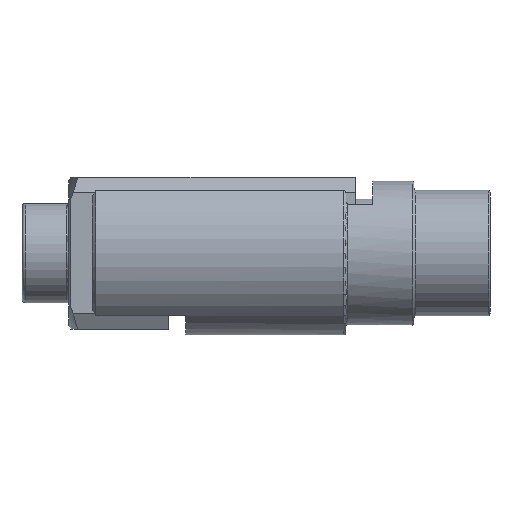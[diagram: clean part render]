
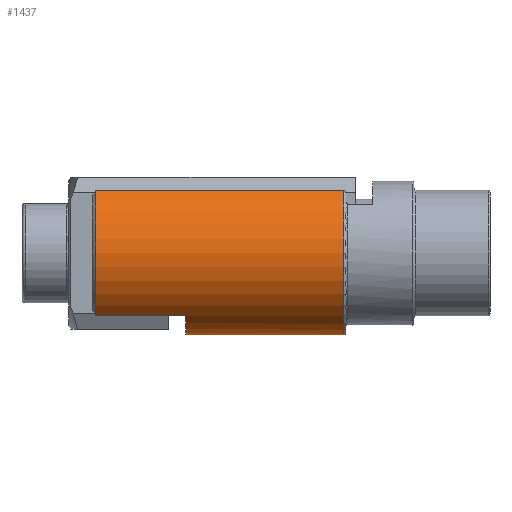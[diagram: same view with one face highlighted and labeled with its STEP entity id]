
A CAD part, left-side view. The second image highlights one B-rep face of the part: STEP entity #1437.
In plain terms, the highlighted cylindrical face has radius 11.1 mm (diameter 22.2 mm), a partial arc.
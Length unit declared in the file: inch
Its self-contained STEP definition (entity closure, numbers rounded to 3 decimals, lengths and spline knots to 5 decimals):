
#157=FACE_OUTER_BOUND('',#237,.T.);
#237=EDGE_LOOP('',(#1011,#1012,#1013,#1014,#1015,#1016,#1017,#1018));
#332=LINE('',#2300,#410);
#333=LINE('',#2304,#411);
#334=LINE('',#2308,#412);
#335=LINE('',#2311,#413);
#410=VECTOR('',#1812,0.3937);
#411=VECTOR('',#1815,0.3937);
#412=VECTOR('',#1818,0.3937);
#413=VECTOR('',#1821,0.3937);
#490=CIRCLE('',#1558,0.437);
#496=CIRCLE('',#1567,0.437);
#497=CIRCLE('',#1568,0.437);
#498=CIRCLE('',#1569,0.437);
#600=VERTEX_POINT('',#2253);
#601=VERTEX_POINT('',#2264);
#611=VERTEX_POINT('',#2299);
#612=VERTEX_POINT('',#2301);
#613=VERTEX_POINT('',#2303);
#614=VERTEX_POINT('',#2305);
#615=VERTEX_POINT('',#2307);
#616=VERTEX_POINT('',#2309);
#759=EDGE_CURVE('',#600,#601,#490,.T.);
#772=EDGE_CURVE('',#600,#611,#332,.T.);
#773=EDGE_CURVE('',#612,#611,#496,.T.);
#774=EDGE_CURVE('',#612,#613,#333,.T.);
#775=EDGE_CURVE('',#613,#614,#497,.T.);
#776=EDGE_CURVE('',#614,#615,#334,.T.);
#777=EDGE_CURVE('',#616,#615,#498,.T.);
#778=EDGE_CURVE('',#616,#601,#335,.T.);
#1011=ORIENTED_EDGE('',*,*,#772,.T.);
#1012=ORIENTED_EDGE('',*,*,#773,.F.);
#1013=ORIENTED_EDGE('',*,*,#774,.T.);
#1014=ORIENTED_EDGE('',*,*,#775,.T.);
#1015=ORIENTED_EDGE('',*,*,#776,.T.);
#1016=ORIENTED_EDGE('',*,*,#777,.F.);
#1017=ORIENTED_EDGE('',*,*,#778,.T.);
#1018=ORIENTED_EDGE('',*,*,#759,.F.);
#1412=CYLINDRICAL_SURFACE('',#1566,0.437);
#1437=ADVANCED_FACE('',(#157),#1412,.T.);
#1558=AXIS2_PLACEMENT_3D('',#2265,#1788,#1789);
#1566=AXIS2_PLACEMENT_3D('',#2298,#1810,#1811);
#1567=AXIS2_PLACEMENT_3D('',#2302,#1813,#1814);
#1568=AXIS2_PLACEMENT_3D('',#2306,#1816,#1817);
#1569=AXIS2_PLACEMENT_3D('',#2310,#1819,#1820);
#1788=DIRECTION('center_axis',(0.,-1.,0.));
#1789=DIRECTION('ref_axis',(0.,0.,1.));
#1810=DIRECTION('center_axis',(0.,-1.,0.));
#1811=DIRECTION('ref_axis',(0.,0.,-1.));
#1812=DIRECTION('',(0.,1.,0.));
#1813=DIRECTION('center_axis',(0.,1.,0.));
#1814=DIRECTION('ref_axis',(0.,0.,1.));
#1815=DIRECTION('',(0.,-1.,0.));
#1816=DIRECTION('center_axis',(0.,-1.,0.));
#1817=DIRECTION('ref_axis',(0.,0.,-1.));
#1818=DIRECTION('',(0.,1.,0.));
#1819=DIRECTION('center_axis',(0.,1.,0.));
#1820=DIRECTION('ref_axis',(0.,0.,1.));
#1821=DIRECTION('',(0.,-1.,0.));
#2253=CARTESIAN_POINT('',(-0.282,0.78,0.33383));
#2264=CARTESIAN_POINT('',(0.282,0.78,0.33383));
#2265=CARTESIAN_POINT('Origin',(0.,0.78,0.));
#2298=CARTESIAN_POINT('Origin',(0.,1.4475,0.));
#2299=CARTESIAN_POINT('',(-0.282,2.105,0.33383));
#2300=CARTESIAN_POINT('',(-0.282,1.4475,0.33383));
#2301=CARTESIAN_POINT('',(-0.282,2.105,-0.33383));
#2302=CARTESIAN_POINT('Origin',(0.,2.105,0.));
#2303=CARTESIAN_POINT('',(-0.282,1.625,-0.33383));
#2304=CARTESIAN_POINT('',(-0.282,1.4475,-0.33383));
#2305=CARTESIAN_POINT('',(0.282,1.625,-0.33383));
#2306=CARTESIAN_POINT('Origin',(0.,1.625,0.));
#2307=CARTESIAN_POINT('',(0.282,2.105,-0.33383));
#2308=CARTESIAN_POINT('',(0.282,1.4475,-0.33383));
#2309=CARTESIAN_POINT('',(0.282,2.105,0.33383));
#2310=CARTESIAN_POINT('Origin',(0.,2.105,0.));
#2311=CARTESIAN_POINT('',(0.282,1.4475,0.33383));
